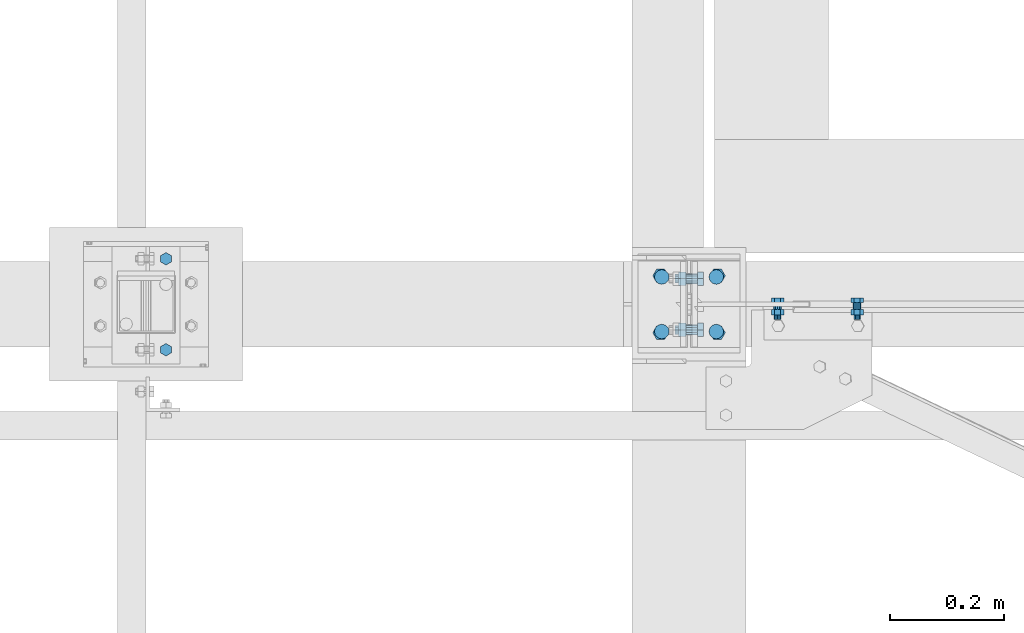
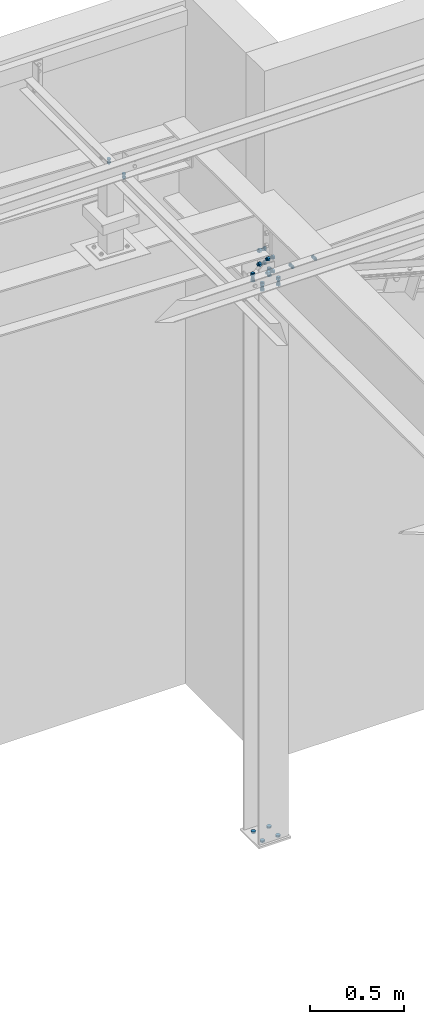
# One storey, part 218 of 3134: 6 mechanical fasteners, 4 elements without a shape of their own.
"""IFC2X3 building model written with IfcOpenShell, lengths in millimetres."""

from ifc_helpers import new_model, si_unit, frame, origin_with_axes, place, context, subcontext, project, spatial, faceted_brep, source, transform, mapped, material, type_object, element, aggregate, save


model = new_model("IFC2X3")

# Units and contexts
model_context = context("Model", 3, precision=1e-05, world=origin_with_axes())
body_context = subcontext(model_context, "Body", "Model", "MODEL_VIEW")
ifc_project = project(units=[si_unit("LENGTHUNIT", "METRE", prefix="MILLI"), si_unit("AREAUNIT", "SQUARE_METRE"), si_unit("VOLUMEUNIT", "CUBIC_METRE"), si_unit("MASSUNIT", "GRAM", prefix="KILO"), si_unit("TIMEUNIT", "SECOND"), si_unit("PLANEANGLEUNIT", "RADIAN"), si_unit("SOLIDANGLEUNIT", "STERADIAN"), si_unit("THERMODYNAMICTEMPERATUREUNIT", "DEGREE_CELSIUS"), si_unit("LUMINOUSINTENSITYUNIT", "LUMEN")], contexts=[model_context])

# Site, building, storey
site_placement = place(None, origin_with_axes())
site = spatial("IfcSite", under=ifc_project, at=site_placement, CompositionType="ELEMENT")
building_placement = place(site_placement, origin_with_axes())
building = spatial("IfcBuilding", under=site, at=building_placement, Name="Undefined", CompositionType="ELEMENT")
storey_placement = place(building_placement, origin_with_axes())
storey = spatial("IfcBuildingStorey", under=building, at=storey_placement, Name="Undefined", CompositionType="ELEMENT", Elevation=0.0)

# Assembly, mechanical fastener
assembly_1_placement = place(storey_placement, origin_with_axes())
assembly_1 = element("IfcElementAssembly", 1, at=assembly_1_placement, inside=storey, AssemblyPlace="NOTDEFINED", PredefinedType="RIGID_FRAME")
ifc_material = material(Name="8.8")
mechanical_fastener_type = type_object("IfcMechanicalFastenerType", Name="Bolt assembly")
shared_shape_1 = source(origin_with_axes(), body_context, "Body", "Brep", [
    faceted_brep([(10.9696551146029, -14.0, 0.0), (5.48482755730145, -14.0, 9.5), (-5.48482755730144, -14.0, 9.5), (-10.9696551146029, -14.0, 1.34339530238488e-15), (-5.48482755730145, -14.0, -9.5), (5.48482755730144, -14.0, -9.50000000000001), (5.48482755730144, -6.0, -9.50000000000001), (-5.48482755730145, -6.0, -9.5), (-10.9696551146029, -6.0, 1.34339530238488e-15), (-5.48482755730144, -6.0, 9.5), (5.48482755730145, -6.0, 9.5), (10.9696551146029, -6.0, 0.0), (6.0, -6.0, 0.0), (5.19615242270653, -6.0, 3.00000000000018), (2.99999999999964, -6.0, 5.19615242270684), (-6.21801588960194e-13, -6.0, 6.0), (-3.00000000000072, -6.0, 5.19615242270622), (-5.19615242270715, -6.0, 2.9999999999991), (-6.0, -6.0, -1.24360317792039e-12), (-5.19615242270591, -6.0, -3.00000000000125), (-2.99999999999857, -6.0, -5.19615242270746), (1.85874342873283e-12, -6.0, -6.0), (3.00000000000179, -6.0, -5.1961524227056), (5.19615242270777, -6.0, -2.99999999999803), (5.19615242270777, 24.0, -2.99999999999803), (3.00000000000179, 24.0, -5.1961524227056), (1.85874342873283e-12, 24.0, -6.0), (-2.99999999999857, 24.0, -5.19615242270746), (-5.19615242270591, 24.0, -3.00000000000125), (-6.0, 24.0, -1.24360317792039e-12), (-5.19615242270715, 24.0, 2.9999999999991), (-3.00000000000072, 24.0, 5.19615242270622), (-6.21801588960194e-13, 24.0, 6.0), (2.99999999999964, 24.0, 5.19615242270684), (5.19615242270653, 24.0, 3.00000000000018), (6.0, 24.0, 0.0), (10.9696551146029, 6.00000000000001, 0.0), (5.48482755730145, 6.00000000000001, 9.5), (-5.48482755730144, 6.00000000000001, 9.5), (-10.9696551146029, 6.00000000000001, 1.34339530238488e-15), (-5.48482755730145, 6.00000000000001, -9.5), (5.48482755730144, 6.00000000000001, -9.50000000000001), (5.48482755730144, 16.0, -9.50000000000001), (-5.48482755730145, 16.0, -9.5), (-10.9696551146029, 16.0, 1.34339530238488e-15), (-5.48482755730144, 16.0, 9.5), (5.48482755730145, 16.0, 9.5), (10.9696551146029, 16.0, 0.0)], [[[0, 1, 2, 3, 4, 5]], [[6, 7, 8, 9, 10, 11]], [[0, 11, 10, 1]], [[1, 10, 9, 2]], [[2, 9, 8, 3]], [[3, 8, 7, 4]], [[4, 7, 6, 5]], [[5, 6, 11, 0]], [[12, 13, 14, 15, 16, 17, 18, 19, 20, 21, 22, 23]], [[24, 25, 26, 27, 28, 29, 30, 31, 32, 33, 34, 35]], [[12, 35, 34, 13]], [[13, 34, 33, 14]], [[14, 33, 32, 15]], [[15, 32, 31, 16]], [[16, 31, 30, 17]], [[17, 30, 29, 18]], [[18, 29, 28, 19]], [[19, 28, 27, 20]], [[20, 27, 26, 21]], [[21, 26, 25, 22]], [[22, 25, 24, 23]], [[23, 24, 35, 12]], [[36, 37, 38, 39, 40, 41]], [[42, 43, 44, 45, 46, 47]], [[36, 47, 46, 37]], [[37, 46, 45, 38]], [[38, 45, 44, 39]], [[39, 44, 43, 40]], [[40, 43, 42, 41]], [[41, 42, 47, 36]]]),
    faceted_brep([(7.0, -5.9, 0.0), (6.06217782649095, -5.9, 3.50000000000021), (3.49999999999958, -5.9, 6.06217782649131), (-7.25435187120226e-13, -5.9, 7.0), (-3.50000000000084, -5.9, 6.06217782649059), (-6.06217782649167, -5.9, 3.49999999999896), (-7.0, -5.9, -1.45087037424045e-12), (-6.06217782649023, -5.9, -3.50000000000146), (-3.49999999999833, -5.9, -6.06217782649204), (2.1685340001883e-12, -5.9, -7.0), (3.50000000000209, -5.9, -6.06217782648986), (6.0621778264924, -5.9, -3.4999999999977), (6.0621778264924, 0.0999999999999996, -3.4999999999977), (3.50000000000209, 0.0999999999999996, -6.06217782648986), (2.1685340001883e-12, 0.0999999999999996, -7.0), (-3.49999999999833, 0.0999999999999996, -6.06217782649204), (-6.06217782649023, 0.0999999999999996, -3.50000000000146), (-7.0, 0.0999999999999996, -1.45087037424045e-12), (-6.06217782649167, 0.0999999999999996, 3.49999999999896), (-3.50000000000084, 0.0999999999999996, 6.06217782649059), (-7.25435187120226e-13, 0.0999999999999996, 7.0), (3.49999999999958, 0.0999999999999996, 6.06217782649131), (6.06217782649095, 0.0999999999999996, 3.50000000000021), (7.0, 0.0999999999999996, 0.0), (7.0, -0.1, 0.0), (6.06217782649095, -0.1, 3.50000000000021), (3.49999999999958, -0.1, 6.06217782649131), (-7.25435187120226e-13, -0.1, 7.0), (-3.50000000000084, -0.1, 6.06217782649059), (-6.06217782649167, -0.1, 3.49999999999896), (-7.0, -0.1, -1.45087037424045e-12), (-6.06217782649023, -0.1, -3.50000000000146), (-3.49999999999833, -0.1, -6.06217782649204), (2.1685340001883e-12, -0.1, -7.0), (3.50000000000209, -0.1, -6.06217782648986), (6.0621778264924, -0.1, -3.4999999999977), (6.0621778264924, 6.00000000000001, -3.4999999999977), (3.50000000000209, 6.00000000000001, -6.06217782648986), (2.1685340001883e-12, 6.00000000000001, -7.0), (-3.49999999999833, 6.00000000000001, -6.06217782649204), (-6.06217782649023, 6.00000000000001, -3.50000000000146), (-7.0, 6.00000000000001, -1.45087037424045e-12), (-6.06217782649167, 6.00000000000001, 3.49999999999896), (-3.50000000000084, 6.00000000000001, 6.06217782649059), (-7.25435187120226e-13, 6.00000000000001, 7.0), (3.49999999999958, 6.00000000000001, 6.06217782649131), (6.06217782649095, 6.00000000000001, 3.50000000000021), (7.0, 6.00000000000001, 0.0)], [[[0, 1, 2, 3, 4, 5, 6, 7, 8, 9, 10, 11]], [[12, 13, 14, 15, 16, 17, 18, 19, 20, 21, 22, 23]], [[0, 23, 22, 1]], [[1, 22, 21, 2]], [[2, 21, 20, 3]], [[3, 20, 19, 4]], [[4, 19, 18, 5]], [[5, 18, 17, 6]], [[6, 17, 16, 7]], [[7, 16, 15, 8]], [[8, 15, 14, 9]], [[9, 14, 13, 10]], [[10, 13, 12, 11]], [[11, 12, 23, 0]], [[24, 25, 26, 27, 28, 29, 30, 31, 32, 33, 34, 35]], [[36, 37, 38, 39, 40, 41, 42, 43, 44, 45, 46, 47]], [[24, 47, 46, 25]], [[25, 46, 45, 26]], [[26, 45, 44, 27]], [[27, 44, 43, 28]], [[28, 43, 42, 29]], [[29, 42, 41, 30]], [[30, 41, 40, 31]], [[31, 40, 39, 32]], [[32, 39, 38, 33]], [[33, 38, 37, 34]], [[34, 37, 36, 35]], [[35, 36, 47, 24]]]),
])
mechanical_fastener_1_placement = place(assembly_1_placement, frame((8375.0, 48445.0, 4265.0), z_axis=(-1.0, 0.0, 0.0), x_axis=(0.0, 1.0, 0.0)))
mechanical_fastener_1 = element("IfcMechanicalFastener", 2, at=mechanical_fastener_1_placement, type_object=mechanical_fastener_type, material=ifc_material, Name="Bolt assembly", NominalDiameter=12.0, NominalLength=30.0, context=body_context, shape_type="MappedRepresentation", body=[
    mapped(shared_shape_1, transform((0.0, 0.0, 0.0))),
    mapped(shared_shape_1, transform((160.0, 0.0, 0.0))),
])
aggregate(assembly_1, [mechanical_fastener_1])

# Assembly, mechanical fasteners
assembly_2_placement = place(storey_placement, origin_with_axes())
assembly_2 = element("IfcElementAssembly", 3, at=assembly_2_placement, inside=storey, Name="HEA180", AssemblyPlace="NOTDEFINED", PredefinedType="RIGID_FRAME")
shared_shape_2 = source(origin_with_axes(), body_context, "Body", "Brep", [
    faceted_brep([(13.0, 0.0, 0.0), (11.2583302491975, 0.0, 6.50000000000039), (6.49999999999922, 0.0, 11.2583302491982), (-1.34723677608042e-12, 0.0, 13.0), (-6.50000000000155, 0.0, 11.2583302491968), (-11.2583302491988, 0.0, 6.49999999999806), (-13.0, 0.0, -2.69447355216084e-12), (-11.2583302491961, 0.0, -6.50000000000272), (-6.4999999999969, 0.0, -11.2583302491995), (4.02727742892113e-12, 0.0, -13.0), (6.50000000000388, 0.0, -11.2583302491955), (11.2583302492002, 0.0, -6.49999999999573), (11.2583302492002, 12.1, -6.49999999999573), (6.50000000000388, 12.1, -11.2583302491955), (4.02727742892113e-12, 12.1, -13.0), (-6.4999999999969, 12.1, -11.2583302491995), (-11.2583302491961, 12.1, -6.50000000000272), (-13.0, 12.1, -2.69447355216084e-12), (-11.2583302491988, 12.1, 6.49999999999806), (-6.50000000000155, 12.1, 11.2583302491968), (-1.34723677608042e-12, 12.1, 13.0), (6.49999999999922, 12.1, 11.2583302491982), (11.2583302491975, 12.1, 6.50000000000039), (13.0, 12.1, 0.0)], [[[0, 1, 2, 3, 4, 5, 6, 7, 8, 9, 10, 11]], [[12, 13, 14, 15, 16, 17, 18, 19, 20, 21, 22, 23]], [[0, 23, 22, 1]], [[1, 22, 21, 2]], [[2, 21, 20, 3]], [[3, 20, 19, 4]], [[4, 19, 18, 5]], [[5, 18, 17, 6]], [[6, 17, 16, 7]], [[7, 16, 15, 8]], [[8, 15, 14, 9]], [[9, 14, 13, 10]], [[10, 13, 12, 11]], [[11, 12, 23, 0]]]),
])
mechanical_fastener_2_placement = place(assembly_2_placement, frame((9343.0, 48525.0, -400.0), z_axis=(0.0, 1.0, 0.0), x_axis=(-1.0, 0.0, 0.0)))
mechanical_fastener_2 = element("IfcMechanicalFastener", 4, at=mechanical_fastener_2_placement, type_object=mechanical_fastener_type, material=ifc_material, Name="Bolt assembly", NominalDiameter=24.0, NominalLength=12.0, context=body_context, shape_type="MappedRepresentation", body=[
    mapped(shared_shape_2, transform((0.0, 0.0, -48.0))),
    mapped(shared_shape_2, transform((96.0, 0.0, -48.0))),
    mapped(shared_shape_2, transform((0.0, 0.0, 48.0))),
    mapped(shared_shape_2, transform((96.0, 0.0, 48.0))),
])
shared_shape_3 = source(origin_with_axes(), body_context, "Body", "Brep", [
    faceted_brep([(13.856406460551, -10.0, 0.0), (6.92820323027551, -10.0, 12.0), (-6.92820323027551, -10.0, 12.0), (-13.856406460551, -10.0, 1.69692038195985e-15), (-6.92820323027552, -10.0, -12.0), (6.9282032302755, -10.0, -12.0), (6.9282032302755, 0.0, -12.0), (-6.92820323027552, 0.0, -12.0), (-13.856406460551, 0.0, 1.69692038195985e-15), (-6.92820323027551, 0.0, 12.0), (6.92820323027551, 0.0, 12.0), (13.856406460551, 0.0, 0.0), (8.0, 0.0, 0.0), (6.92820323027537, 0.0, 4.00000000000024), (3.99999999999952, 0.0, 6.92820323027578), (-8.29068785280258e-13, 0.0, 8.0), (-4.00000000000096, 0.0, 6.92820323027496), (-6.9282032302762, 0.0, 3.99999999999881), (-8.0, 0.0, -1.65813757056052e-12), (-6.92820323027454, 0.0, -4.00000000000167), (-3.99999999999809, 0.0, -6.92820323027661), (2.47832457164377e-12, 0.0, -8.0), (4.00000000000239, 0.0, -6.92820323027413), (6.92820323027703, 0.0, -3.99999999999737), (6.92820323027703, 45.0, -3.99999999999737), (4.00000000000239, 45.0, -6.92820323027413), (2.47832457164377e-12, 45.0, -8.0), (-3.99999999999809, 45.0, -6.92820323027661), (-6.92820323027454, 45.0, -4.00000000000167), (-8.0, 45.0, -1.65813757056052e-12), (-6.9282032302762, 45.0, 3.99999999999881), (-4.00000000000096, 45.0, 6.92820323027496), (-8.29068785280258e-13, 45.0, 8.0), (3.99999999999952, 45.0, 6.92820323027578), (6.92820323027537, 45.0, 4.00000000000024), (8.0, 45.0, 0.0), (13.856406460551, 27.9999995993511, 0.0), (6.92820323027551, 27.9999995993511, 12.0), (-6.92820323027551, 27.9999995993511, 12.0), (-13.856406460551, 27.9999995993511, 1.69692038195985e-15), (-6.92820323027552, 27.9999995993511, -12.0), (6.9282032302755, 27.9999995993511, -12.0), (6.9282032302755, 41.0, -12.0), (-6.92820323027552, 41.0, -12.0), (-13.856406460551, 41.0, 1.69692038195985e-15), (-6.92820323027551, 41.0, 12.0), (6.92820323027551, 41.0, 12.0), (13.856406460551, 41.0, 0.0)], [[[0, 1, 2, 3, 4, 5]], [[6, 7, 8, 9, 10, 11]], [[0, 11, 10, 1]], [[1, 10, 9, 2]], [[2, 9, 8, 3]], [[3, 8, 7, 4]], [[4, 7, 6, 5]], [[5, 6, 11, 0]], [[12, 13, 14, 15, 16, 17, 18, 19, 20, 21, 22, 23]], [[24, 25, 26, 27, 28, 29, 30, 31, 32, 33, 34, 35]], [[12, 35, 34, 13]], [[13, 34, 33, 14]], [[14, 33, 32, 15]], [[15, 32, 31, 16]], [[16, 31, 30, 17]], [[17, 30, 29, 18]], [[18, 29, 28, 19]], [[19, 28, 27, 20]], [[20, 27, 26, 21]], [[21, 26, 25, 22]], [[22, 25, 24, 23]], [[23, 24, 35, 12]], [[36, 37, 38, 39, 40, 41]], [[42, 43, 44, 45, 46, 47]], [[36, 47, 46, 37]], [[37, 46, 45, 38]], [[38, 45, 44, 39]], [[39, 44, 43, 40]], [[40, 43, 42, 41]], [[41, 42, 47, 36]]]),
    faceted_brep([(9.0, 11.9, 0.0), (7.79422863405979, 11.9, 4.50000000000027), (4.49999999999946, 11.9, 7.79422863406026), (-9.3270238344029e-13, 11.9, 9.0), (-4.50000000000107, 11.9, 7.79422863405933), (-7.79422863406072, 11.9, 4.49999999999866), (-9.0, 11.9, -1.86540476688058e-12), (-7.79422863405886, 11.9, -4.50000000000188), (-4.49999999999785, 11.9, -7.79422863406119), (2.78811514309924e-12, 11.9, -9.0), (4.50000000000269, 11.9, -7.7942286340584), (7.79422863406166, 11.9, -4.49999999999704), (7.79422863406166, 28.0, -4.49999999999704), (4.50000000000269, 28.0, -7.7942286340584), (2.78811514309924e-12, 28.0, -9.0), (-4.49999999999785, 28.0, -7.79422863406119), (-7.79422863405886, 28.0, -4.50000000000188), (-9.0, 28.0, -1.86540476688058e-12), (-7.79422863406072, 28.0, 4.49999999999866), (-4.50000000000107, 28.0, 7.79422863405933), (-9.3270238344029e-13, 28.0, 9.0), (4.49999999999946, 28.0, 7.79422863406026), (7.79422863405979, 28.0, 4.50000000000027), (9.0, 28.0, 0.0), (9.0, 0.100000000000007, 0.0), (7.79422863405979, 0.100000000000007, 4.50000000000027), (4.49999999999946, 0.100000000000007, 7.79422863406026), (-9.3270238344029e-13, 0.100000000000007, 9.0), (-4.50000000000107, 0.100000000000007, 7.79422863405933), (-7.79422863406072, 0.100000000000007, 4.49999999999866), (-9.0, 0.100000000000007, -1.86540476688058e-12), (-7.79422863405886, 0.100000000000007, -4.50000000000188), (-4.49999999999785, 0.100000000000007, -7.79422863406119), (2.78811514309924e-12, 0.100000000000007, -9.0), (4.50000000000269, 0.100000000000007, -7.7942286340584), (7.79422863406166, 0.100000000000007, -4.49999999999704), (7.79422863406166, 12.1, -4.49999999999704), (4.50000000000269, 12.1, -7.7942286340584), (2.78811514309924e-12, 12.1, -9.0), (-4.49999999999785, 12.1, -7.79422863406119), (-7.79422863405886, 12.1, -4.50000000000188), (-9.0, 12.1, -1.86540476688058e-12), (-7.79422863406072, 12.1, 4.49999999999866), (-4.50000000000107, 12.1, 7.79422863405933), (-9.3270238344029e-13, 12.1, 9.0), (4.49999999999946, 12.1, 7.79422863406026), (7.79422863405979, 12.1, 4.50000000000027), (9.0, 12.1, 0.0)], [[[0, 1, 2, 3, 4, 5, 6, 7, 8, 9, 10, 11]], [[12, 13, 14, 15, 16, 17, 18, 19, 20, 21, 22, 23]], [[0, 23, 22, 1]], [[1, 22, 21, 2]], [[2, 21, 20, 3]], [[3, 20, 19, 4]], [[4, 19, 18, 5]], [[5, 18, 17, 6]], [[6, 17, 16, 7]], [[7, 16, 15, 8]], [[8, 15, 14, 9]], [[9, 14, 13, 10]], [[10, 13, 12, 11]], [[11, 12, 23, 0]], [[24, 25, 26, 27, 28, 29, 30, 31, 32, 33, 34, 35]], [[36, 37, 38, 39, 40, 41, 42, 43, 44, 45, 46, 47]], [[24, 47, 46, 25]], [[25, 46, 45, 26]], [[26, 45, 44, 27]], [[27, 44, 43, 28]], [[28, 43, 42, 29]], [[29, 42, 41, 30]], [[30, 41, 40, 31]], [[31, 40, 39, 32]], [[32, 39, 38, 33]], [[33, 38, 37, 34]], [[34, 37, 36, 35]], [[35, 36, 47, 24]]]),
])
mechanical_fastener_3_placement = place(assembly_2_placement, frame((9345.0, 48525.0, 3202.67), z_axis=(0.0, 1.0, 0.0), x_axis=(-1.0, 0.0, 0.0)))
mechanical_fastener_3 = element("IfcMechanicalFastener", 5, at=mechanical_fastener_3_placement, type_object=mechanical_fastener_type, material=ifc_material, Name="Bolt assembly", NominalDiameter=16.0, NominalLength=45.0, context=body_context, shape_type="MappedRepresentation", body=[
    mapped(shared_shape_3, transform((0.0, 0.0, -50.0))),
    mapped(shared_shape_3, transform((100.0, 0.0, -50.0))),
    mapped(shared_shape_3, transform((0.0, 0.0, 50.0))),
    mapped(shared_shape_3, transform((100.0, 0.0, 50.0))),
])
aggregate(assembly_2, [mechanical_fastener_3, mechanical_fastener_2])

# Assembly, mechanical fastener
assembly_3_placement = place(storey_placement, origin_with_axes())
assembly_3 = element("IfcElementAssembly", 6, at=assembly_3_placement, inside=storey, Name="300", AssemblyPlace="NOTDEFINED", PredefinedType="RIGID_FRAME")
shared_shape_4 = source(origin_with_axes(), body_context, "Body", "Brep", [
    faceted_brep([(10.9696551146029, -14.100633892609, 0.0), (5.48482755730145, -14.100633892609, 9.5), (-5.48482755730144, -14.100633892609, 9.5), (-10.9696551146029, -14.100633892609, 1.34339530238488e-15), (-5.48482755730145, -14.100633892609, -9.5), (5.48482755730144, -14.100633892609, -9.50000000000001), (5.48482755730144, -6.10063389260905, -9.50000000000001), (-5.48482755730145, -6.10063389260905, -9.5), (-10.9696551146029, -6.10063389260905, 1.34339530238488e-15), (-5.48482755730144, -6.10063389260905, 9.5), (5.48482755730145, -6.10063389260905, 9.5), (10.9696551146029, -6.10063389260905, 0.0), (6.0, -6.10063389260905, 0.0), (5.19615242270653, -6.10063389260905, 3.00000000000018), (2.99999999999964, -6.10063389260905, 5.19615242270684), (-6.21801588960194e-13, -6.10063389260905, 6.0), (-3.00000000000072, -6.10063389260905, 5.19615242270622), (-5.19615242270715, -6.10063389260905, 2.9999999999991), (-6.0, -6.10063389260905, -1.24360317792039e-12), (-5.19615242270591, -6.10063389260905, -3.00000000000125), (-2.99999999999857, -6.10063389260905, -5.19615242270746), (1.85874342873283e-12, -6.10063389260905, -6.0), (3.00000000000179, -6.10063389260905, -5.1961524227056), (5.19615242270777, -6.10063389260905, -2.99999999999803), (5.19615242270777, 23.899366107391, -2.99999999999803), (3.00000000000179, 23.899366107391, -5.1961524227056), (1.85874342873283e-12, 23.899366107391, -6.0), (-2.99999999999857, 23.899366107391, -5.19615242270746), (-5.19615242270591, 23.899366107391, -3.00000000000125), (-6.0, 23.899366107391, -1.24360317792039e-12), (-5.19615242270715, 23.899366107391, 2.9999999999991), (-3.00000000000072, 23.899366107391, 5.19615242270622), (-6.21801588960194e-13, 23.899366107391, 6.0), (2.99999999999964, 23.899366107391, 5.19615242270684), (5.19615242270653, 23.899366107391, 3.00000000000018), (6.0, 23.899366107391, 0.0), (10.9696551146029, 6.00000000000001, 0.0), (5.48482755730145, 6.00000000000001, 9.5), (-5.48482755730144, 6.00000000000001, 9.5), (-10.9696551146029, 6.00000000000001, 1.34339530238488e-15), (-5.48482755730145, 6.00000000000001, -9.5), (5.48482755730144, 6.00000000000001, -9.50000000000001), (5.48482755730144, 16.0, -9.50000000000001), (-5.48482755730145, 16.0, -9.5), (-10.9696551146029, 16.0, 1.34339530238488e-15), (-5.48482755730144, 16.0, 9.5), (5.48482755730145, 16.0, 9.5), (10.9696551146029, 16.0, 0.0)], [[[0, 1, 2, 3, 4, 5]], [[6, 7, 8, 9, 10, 11]], [[0, 11, 10, 1]], [[1, 10, 9, 2]], [[2, 9, 8, 3]], [[3, 8, 7, 4]], [[4, 7, 6, 5]], [[5, 6, 11, 0]], [[12, 13, 14, 15, 16, 17, 18, 19, 20, 21, 22, 23]], [[24, 25, 26, 27, 28, 29, 30, 31, 32, 33, 34, 35]], [[12, 35, 34, 13]], [[13, 34, 33, 14]], [[14, 33, 32, 15]], [[15, 32, 31, 16]], [[16, 31, 30, 17]], [[17, 30, 29, 18]], [[18, 29, 28, 19]], [[19, 28, 27, 20]], [[20, 27, 26, 21]], [[21, 26, 25, 22]], [[22, 25, 24, 23]], [[23, 24, 35, 12]], [[36, 37, 38, 39, 40, 41]], [[42, 43, 44, 45, 46, 47]], [[36, 47, 46, 37]], [[37, 46, 45, 38]], [[38, 45, 44, 39]], [[39, 44, 43, 40]], [[40, 43, 42, 41]], [[41, 42, 47, 36]]]),
    faceted_brep([(7.0, -0.1, 0.0), (6.06217782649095, -0.1, 3.50000000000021), (3.49999999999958, -0.1, 6.06217782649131), (-7.25435187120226e-13, -0.1, 7.0), (-3.50000000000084, -0.1, 6.06217782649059), (-6.06217782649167, -0.1, 3.49999999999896), (-7.0, -0.1, -1.45087037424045e-12), (-6.06217782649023, -0.1, -3.50000000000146), (-3.49999999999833, -0.1, -6.06217782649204), (2.1685340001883e-12, -0.1, -7.0), (3.50000000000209, -0.1, -6.06217782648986), (6.0621778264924, -0.1, -3.4999999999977), (6.0621778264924, 6.00000000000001, -3.4999999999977), (3.50000000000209, 6.00000000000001, -6.06217782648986), (2.1685340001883e-12, 6.00000000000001, -7.0), (-3.49999999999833, 6.00000000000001, -6.06217782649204), (-6.06217782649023, 6.00000000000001, -3.50000000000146), (-7.0, 6.00000000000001, -1.45087037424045e-12), (-6.06217782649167, 6.00000000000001, 3.49999999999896), (-3.50000000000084, 6.00000000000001, 6.06217782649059), (-7.25435187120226e-13, 6.00000000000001, 7.0), (3.49999999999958, 6.00000000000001, 6.06217782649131), (6.06217782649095, 6.00000000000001, 3.50000000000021), (7.0, 6.00000000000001, 0.0), (7.0, -6.00063389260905, 0.0), (6.06217782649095, -6.00063389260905, 3.50000000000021), (3.49999999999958, -6.00063389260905, 6.06217782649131), (-7.25435187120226e-13, -6.00063389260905, 7.0), (-3.50000000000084, -6.00063389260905, 6.06217782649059), (-6.06217782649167, -6.00063389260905, 3.49999999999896), (-7.0, -6.00063389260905, -1.45087037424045e-12), (-6.06217782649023, -6.00063389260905, -3.50000000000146), (-3.49999999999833, -6.00063389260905, -6.06217782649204), (2.1685340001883e-12, -6.00063389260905, -7.0), (3.50000000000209, -6.00063389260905, -6.06217782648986), (6.0621778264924, -6.00063389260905, -3.4999999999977), (6.0621778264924, 0.0993172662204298, -3.4999999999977), (3.50000000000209, 0.0993172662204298, -6.06217782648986), (2.1685340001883e-12, 0.0993172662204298, -7.0), (-3.49999999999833, 0.0993172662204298, -6.06217782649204), (-6.06217782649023, 0.0993172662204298, -3.50000000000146), (-7.0, 0.0993172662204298, -1.45087037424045e-12), (-6.06217782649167, 0.0993172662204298, 3.49999999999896), (-3.50000000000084, 0.0993172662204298, 6.06217782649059), (-7.25435187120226e-13, 0.0993172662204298, 7.0), (3.49999999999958, 0.0993172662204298, 6.06217782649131), (6.06217782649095, 0.0993172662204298, 3.50000000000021), (7.0, 0.0993172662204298, 0.0)], [[[0, 1, 2, 3, 4, 5, 6, 7, 8, 9, 10, 11]], [[12, 13, 14, 15, 16, 17, 18, 19, 20, 21, 22, 23]], [[0, 23, 22, 1]], [[1, 22, 21, 2]], [[2, 21, 20, 3]], [[3, 20, 19, 4]], [[4, 19, 18, 5]], [[5, 18, 17, 6]], [[6, 17, 16, 7]], [[7, 16, 15, 8]], [[8, 15, 14, 9]], [[9, 14, 13, 10]], [[10, 13, 12, 11]], [[11, 12, 23, 0]], [[24, 25, 26, 27, 28, 29, 30, 31, 32, 33, 34, 35]], [[36, 37, 38, 39, 40, 41, 42, 43, 44, 45, 46, 47]], [[24, 47, 46, 25]], [[25, 46, 45, 26]], [[26, 45, 44, 27]], [[27, 44, 43, 28]], [[28, 43, 42, 29]], [[29, 42, 41, 30]], [[30, 41, 40, 31]], [[31, 40, 39, 32]], [[32, 39, 38, 33]], [[33, 38, 37, 34]], [[34, 37, 36, 35]], [[35, 36, 47, 24]]]),
])
mechanical_fastener_4_placement = place(assembly_3_placement, frame((9590.76250454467, 48521.9493660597, 3256.43825721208), z_axis=(-0.0309851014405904, 0.0, 0.999519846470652), x_axis=(-0.999519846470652, 0.0, -0.0309851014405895)))
mechanical_fastener_4 = element("IfcMechanicalFastener", 7, at=mechanical_fastener_4_placement, type_object=mechanical_fastener_type, material=ifc_material, Name="Bolt assembly", NominalDiameter=12.0, NominalLength=30.0, context=body_context, shape_type="MappedRepresentation", body=[
    mapped(shared_shape_4, transform((0.0, 0.0, 0.0))),
    mapped(shared_shape_4, transform((140.0, 0.0, 0.0))),
])
aggregate(assembly_3, [mechanical_fastener_4])

# Assembly, mechanical fasteners
assembly_4_placement = place(storey_placement, origin_with_axes())
assembly_4 = element("IfcElementAssembly", 8, at=assembly_4_placement, inside=storey, Name="IPE500", AssemblyPlace="NOTDEFINED", PredefinedType="RIGID_FRAME")
shared_shape_5 = source(origin_with_axes(), body_context, "Body", "Brep", [
    faceted_brep([(13.856406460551, -10.0, 0.0), (6.92820323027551, -10.0, 12.0), (-6.92820323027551, -10.0, 12.0), (-13.856406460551, -10.0, 1.69692038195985e-15), (-6.92820323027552, -10.0, -12.0), (6.9282032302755, -10.0, -12.0), (6.9282032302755, 0.0, -12.0), (-6.92820323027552, 0.0, -12.0), (-13.856406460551, 0.0, 1.69692038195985e-15), (-6.92820323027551, 0.0, 12.0), (6.92820323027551, 0.0, 12.0), (13.856406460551, 0.0, 0.0), (8.0, 0.0, 0.0), (6.92820323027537, 0.0, 4.00000000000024), (3.99999999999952, 0.0, 6.92820323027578), (-8.29068785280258e-13, 0.0, 8.0), (-4.00000000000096, 0.0, 6.92820323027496), (-6.9282032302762, 0.0, 3.99999999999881), (-8.0, 0.0, -1.65813757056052e-12), (-6.92820323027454, 0.0, -4.00000000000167), (-3.99999999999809, 0.0, -6.92820323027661), (2.47832457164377e-12, 0.0, -8.0), (4.00000000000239, 0.0, -6.92820323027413), (6.92820323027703, 0.0, -3.99999999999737), (6.92820323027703, 40.0, -3.99999999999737), (4.00000000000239, 40.0, -6.92820323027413), (2.47832457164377e-12, 40.0, -8.0), (-3.99999999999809, 40.0, -6.92820323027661), (-6.92820323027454, 40.0, -4.00000000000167), (-8.0, 40.0, -1.65813757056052e-12), (-6.9282032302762, 40.0, 3.99999999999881), (-4.00000000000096, 40.0, 6.92820323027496), (-8.29068785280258e-13, 40.0, 8.0), (3.99999999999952, 40.0, 6.92820323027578), (6.92820323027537, 40.0, 4.00000000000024), (8.0, 40.0, 0.0), (13.856406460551, 20.1999997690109, 0.0), (6.92820323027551, 20.1999997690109, 12.0), (-6.92820323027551, 20.1999997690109, 12.0), (-13.856406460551, 20.1999997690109, 1.69692038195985e-15), (-6.92820323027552, 20.1999997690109, -12.0), (6.9282032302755, 20.1999997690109, -12.0), (6.9282032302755, 33.1999997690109, -12.0), (-6.92820323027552, 33.1999997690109, -12.0), (-13.856406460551, 33.1999997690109, 1.69692038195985e-15), (-6.92820323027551, 33.1999997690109, 12.0), (6.92820323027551, 33.1999997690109, 12.0), (13.856406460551, 33.1999997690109, 0.0)], [[[0, 1, 2, 3, 4, 5]], [[6, 7, 8, 9, 10, 11]], [[0, 11, 10, 1]], [[1, 10, 9, 2]], [[2, 9, 8, 3]], [[3, 8, 7, 4]], [[4, 7, 6, 5]], [[5, 6, 11, 0]], [[12, 13, 14, 15, 16, 17, 18, 19, 20, 21, 22, 23]], [[24, 25, 26, 27, 28, 29, 30, 31, 32, 33, 34, 35]], [[12, 35, 34, 13]], [[13, 34, 33, 14]], [[14, 33, 32, 15]], [[15, 32, 31, 16]], [[16, 31, 30, 17]], [[17, 30, 29, 18]], [[18, 29, 28, 19]], [[19, 28, 27, 20]], [[20, 27, 26, 21]], [[21, 26, 25, 22]], [[22, 25, 24, 23]], [[23, 24, 35, 12]], [[36, 37, 38, 39, 40, 41]], [[42, 43, 44, 45, 46, 47]], [[36, 47, 46, 37]], [[37, 46, 45, 38]], [[38, 45, 44, 39]], [[39, 44, 43, 40]], [[40, 43, 42, 41]], [[41, 42, 47, 36]]]),
    faceted_brep([(9.0, 0.100000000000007, 0.0), (7.79422863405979, 0.100000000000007, 4.50000000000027), (4.49999999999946, 0.100000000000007, 7.79422863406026), (-9.3270238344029e-13, 0.100000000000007, 9.0), (-4.50000000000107, 0.100000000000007, 7.79422863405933), (-7.79422863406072, 0.100000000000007, 4.49999999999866), (-9.0, 0.100000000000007, -1.86540476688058e-12), (-7.79422863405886, 0.100000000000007, -4.50000000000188), (-4.49999999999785, 0.100000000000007, -7.79422863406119), (2.78811514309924e-12, 0.100000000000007, -9.0), (4.50000000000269, 0.100000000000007, -7.7942286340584), (7.79422863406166, 0.100000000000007, -4.49999999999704), (7.79422863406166, 10.1000023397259, -4.49999999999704), (4.50000000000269, 10.1000023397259, -7.7942286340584), (2.78811514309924e-12, 10.1000023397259, -9.0), (-4.49999999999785, 10.1000023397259, -7.79422863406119), (-7.79422863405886, 10.1000023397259, -4.50000000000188), (-9.0, 10.1000023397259, -1.86540476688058e-12), (-7.79422863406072, 10.1000023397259, 4.49999999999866), (-4.50000000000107, 10.1000023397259, 7.79422863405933), (-9.3270238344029e-13, 10.1000023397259, 9.0), (4.49999999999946, 10.1000023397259, 7.79422863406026), (7.79422863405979, 10.1000023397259, 4.50000000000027), (9.0, 10.1000023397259, 0.0), (9.0, 9.89999999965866, 0.0), (7.79422863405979, 9.89999999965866, 4.50000000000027), (4.49999999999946, 9.89999999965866, 7.79422863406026), (-9.3270238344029e-13, 9.89999999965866, 9.0), (-4.50000000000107, 9.89999999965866, 7.79422863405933), (-7.79422863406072, 9.89999999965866, 4.49999999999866), (-9.0, 9.89999999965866, -1.86540476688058e-12), (-7.79422863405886, 9.89999999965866, -4.50000000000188), (-4.49999999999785, 9.89999999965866, -7.79422863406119), (2.78811514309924e-12, 9.89999999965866, -9.0), (4.50000000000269, 9.89999999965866, -7.7942286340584), (7.79422863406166, 9.89999999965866, -4.49999999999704), (7.79422863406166, 20.1999997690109, -4.49999999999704), (4.50000000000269, 20.1999997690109, -7.7942286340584), (2.78811514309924e-12, 20.1999997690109, -9.0), (-4.49999999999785, 20.1999997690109, -7.79422863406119), (-7.79422863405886, 20.1999997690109, -4.50000000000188), (-9.0, 20.1999997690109, -1.86540476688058e-12), (-7.79422863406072, 20.1999997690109, 4.49999999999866), (-4.50000000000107, 20.1999997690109, 7.79422863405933), (-9.3270238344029e-13, 20.1999997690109, 9.0), (4.49999999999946, 20.1999997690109, 7.79422863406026), (7.79422863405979, 20.1999997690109, 4.50000000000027), (9.0, 20.1999997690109, 0.0)], [[[0, 1, 2, 3, 4, 5, 6, 7, 8, 9, 10, 11]], [[12, 13, 14, 15, 16, 17, 18, 19, 20, 21, 22, 23]], [[0, 23, 22, 1]], [[1, 22, 21, 2]], [[2, 21, 20, 3]], [[3, 20, 19, 4]], [[4, 19, 18, 5]], [[5, 18, 17, 6]], [[6, 17, 16, 7]], [[7, 16, 15, 8]], [[8, 15, 14, 9]], [[9, 14, 13, 10]], [[10, 13, 12, 11]], [[11, 12, 23, 0]], [[24, 25, 26, 27, 28, 29, 30, 31, 32, 33, 34, 35]], [[36, 37, 38, 39, 40, 41, 42, 43, 44, 45, 46, 47]], [[24, 47, 46, 25]], [[25, 46, 45, 26]], [[26, 45, 44, 27]], [[27, 44, 43, 28]], [[28, 43, 42, 29]], [[29, 42, 41, 30]], [[30, 41, 40, 31]], [[31, 40, 39, 32]], [[32, 39, 38, 33]], [[33, 38, 37, 34]], [[34, 37, 36, 35]], [[35, 36, 47, 24]]]),
])
mechanical_fastener_5_placement = place(assembly_4_placement, frame((9310.09999986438, 48480.0, 3381.67000001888), z_axis=(0.0, 1.0, 0.0), x_axis=(0.0, 0.0, -1.0)))
mechanical_fastener_5 = element("IfcMechanicalFastener", 9, at=mechanical_fastener_5_placement, type_object=mechanical_fastener_type, material=ifc_material, Name="Bolt assembly", NominalDiameter=16.0, NominalLength=40.0, context=body_context, shape_type="MappedRepresentation", body=[
    mapped(shared_shape_5, transform((0.0, 0.0, 0.0))),
    mapped(shared_shape_5, transform((90.0, 0.0, 0.0))),
])
mechanical_fastener_6_placement = place(assembly_4_placement, frame((9310.09999986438, 48570.0, 3381.67000001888), z_axis=(0.0, 1.0, 0.0), x_axis=(0.0, 0.0, -1.0)))
mechanical_fastener_6 = element("IfcMechanicalFastener", 10, at=mechanical_fastener_6_placement, type_object=mechanical_fastener_type, material=ifc_material, Name="Bolt assembly", NominalDiameter=16.0, NominalLength=40.0, context=body_context, shape_type="MappedRepresentation", body=[
    mapped(shared_shape_5, transform((0.0, 0.0, 0.0))),
    mapped(shared_shape_5, transform((90.0, 0.0, 0.0))),
])
aggregate(assembly_4, [mechanical_fastener_5, mechanical_fastener_6])

save(model, "model.ifc")
